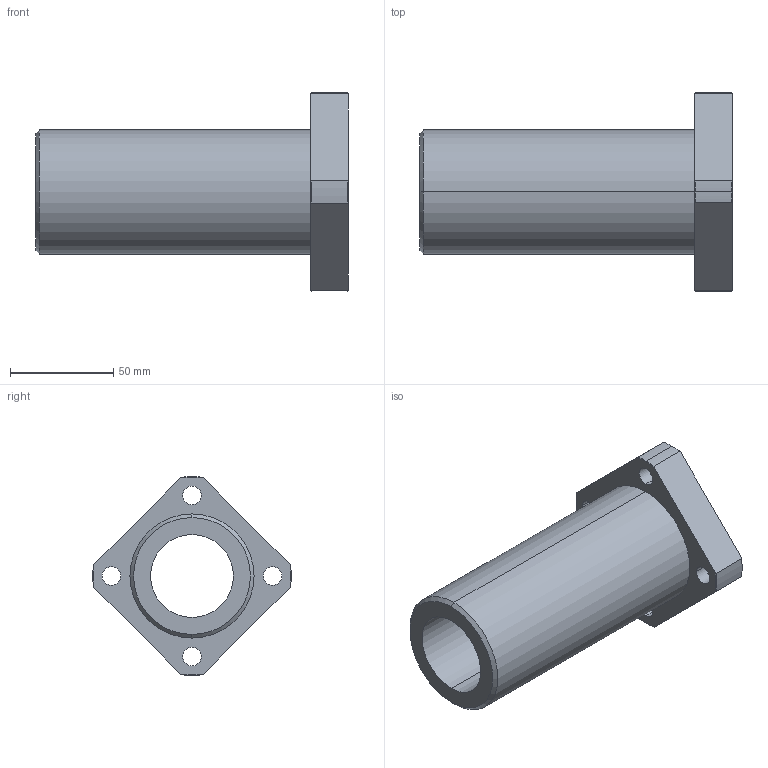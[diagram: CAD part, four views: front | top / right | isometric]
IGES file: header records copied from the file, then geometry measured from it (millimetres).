
Start section: 3D InterOp IGES (Version 21 0 1), Spatial Corp. Copyright (c) 1999-2007.
Global section: file name: DFPJ40.igs; native system: Spatial Corp.; preprocessor: 3D InterOp GENERIC/IGES 3.0; author: Noname; organization: Noname; date: 20220324.140310; units: millimetre
Bounding box: 151 x 95.93 x 96 mm (x, y, z)
Surface area: 59480.4 mm2 (no closed solid volume)
Topology: 0 solids, 0 shells, 48 faces, 240 edges, 240 vertices
Faces by surface type: revolution 37, extrusion 11
